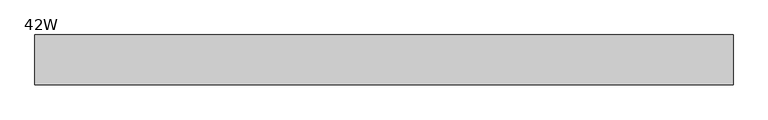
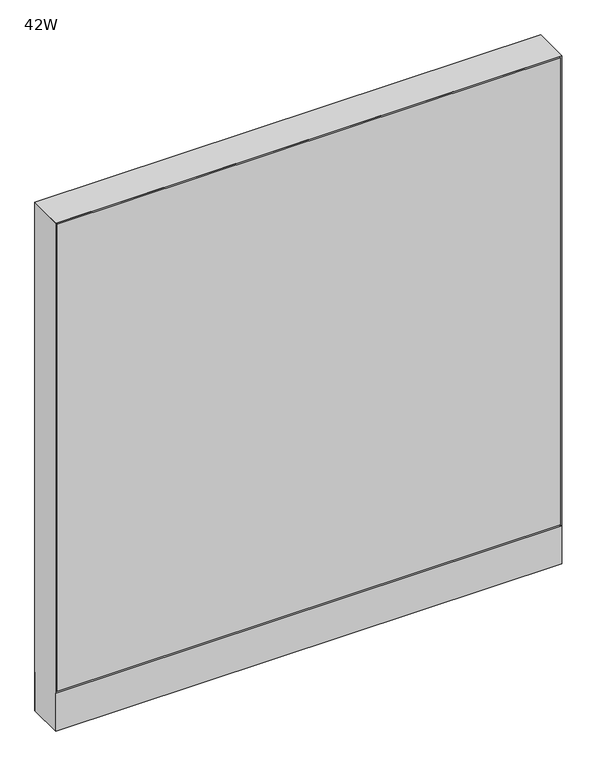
"""IFC4 building model written with IfcOpenShell, lengths in millimetres: furniture geometry, Steelcase - Montage - Frame - 45H - Enhanced Monolithic - Base Cavity : 42W."""

from ifc_helpers import new_model, si_unit, point, frame, frame_2d, origin, origin_with_axes, place, context, project, spatial, polyline, circle_curve, trimmed, segment, composite_curve, outline, extrude, faceted_brep, source, transform, mapped, element, save


def furniture_42w_ce28b0d0(model_context):
    return source(origin(), model_context, "Body", "SolidModel", [
        extrude(outline(polyline([(3.175, 31.7500194), (3.175, 38.1000194), (1063.625, 38.1000194), (1063.625, 31.7500194), (3.175, 31.7500194)])), frame((0.0, 0.0, 92.075), z_axis=(0.0, 0.0, 1.0), x_axis=(1.0, 0.0, 0.0)), (0.0, 0.0, 1.0), 1041.4),
        extrude(outline(polyline([(3.175, -31.7500194), (1063.625, -31.7500194), (1063.625, -38.1000194), (3.175, -38.1000194), (3.175, -31.7500194)])), frame((0.0, 0.0, 92.075), z_axis=(0.0, 0.0, 1.0), x_axis=(1.0, 0.0, 0.0)), (0.0, 0.0, 1.0), 1041.4),
        extrude(outline(polyline([(6.350003, -31.7499985), (1060.449997, -31.7499985), (1066.8, -38.1000015), (0.0, -38.1000015), (6.350003, -31.7499985)])), frame((0.0, 0.0, 4.064), z_axis=(0.0, 0.0, 1.0), x_axis=(1.0, 0.0, 0.0)), (0.0, 0.0, 1.0), 84.835997),
        extrude(outline(polyline([(6.3500002, 31.7500017), (0.0, 38.1000015), (1066.8, 38.1000015), (1060.4500002, 31.7500017), (6.3500002, 31.7500017)])), frame((0.0, 0.0, 4.064), z_axis=(0.0, 0.0, 1.0), x_axis=(1.0, 0.0, 0.0)), (0.0, 0.0, 1.0), 84.835997),
        faceted_brep([(1066.8, -38.1000015, 1136.65), (0.0, -38.1000015, 1136.65), (6.3500484, -31.749953, 1130.2999516), (1060.4499516, -31.749953, 1130.2999516), (6.3500484, 31.749953, 1130.2999516), (1060.4499516, 31.749953, 1130.2999516), (0.0, 38.1000015, 1136.65), (1066.8, 38.1000015, 1136.65)], [[[0, 1, 2, 3]], [[3, 2, 4, 5]], [[6, 7, 5, 4]], [[1, 0, 7, 6]], [[2, 1, 6, 4]], [[0, 3, 5, 7]]]),
        extrude(outline(composite_curve([segment(trimmed(circle_curve(frame_2d((44.45, 0.0)), 15.24), [point((29.21, 0.0))], [point((59.69, 0.0))], False, "CARTESIAN"), True, "CONTINUOUS"), segment(trimmed(circle_curve(frame_2d((44.45, 0.0)), 15.24), [point((59.69, 0.0))], [point((29.21, 0.0))], False, "CARTESIAN"), True, "CONTINUOUS")], self_intersect=False)), origin_with_axes(), (0.0, 0.0, 1.0), 4.064),
        extrude(outline(composite_curve([segment(trimmed(circle_curve(frame_2d((1022.35, 0.0)), 15.24), [point((1007.11, 0.0))], [point((1037.59, 0.0))], False, "CARTESIAN"), True, "CONTINUOUS"), segment(trimmed(circle_curve(frame_2d((1022.35, 0.0)), 15.24), [point((1037.59, 0.0))], [point((1007.11, 0.0))], False, "CARTESIAN"), True, "CONTINUOUS")], self_intersect=False)), origin_with_axes(), (0.0, 0.0, 1.0), 4.064),
        faceted_brep([(1066.8, -38.1000106, 4.064), (1066.8, 38.1000015, 4.064), (1066.8, 38.1000015, 1136.65), (1066.8, -38.1000106, 1136.6499637), (0.0, 38.1000015, 4.064), (0.0, -38.1000015, 4.064), (0.0, -38.1000015, 1136.65), (0.0, 38.1000015, 1136.65), (1060.4499879, 31.7500017, 600.202), (6.35, 31.7500017, 600.202), (6.3499998, 31.7500017, 612.902), (1060.4499879, 31.7500017, 612.902), (6.35, -31.7499985, 612.902), (1060.4499879, -31.7499985, 612.902), (6.350003, -31.7499985, 600.202), (1060.4499879, -31.7499985, 600.202), (6.35, 31.7500015, 4.064), (6.35, -31.7500015, 4.064), (1060.4499879, 31.7499894, 4.064), (1060.4499879, -31.7499985, 4.064), (6.35, 31.7500015, 1130.3), (6.35, -31.7500015, 1130.3), (1060.4499879, -31.7499985, 1130.2999516), (1060.4499879, 31.7499895, 1130.2999516)], [[[0, 1, 2, 3]], [[4, 5, 6, 7]], [[8, 9, 10, 11]], [[11, 10, 12, 13]], [[13, 12, 14, 15]], [[9, 8, 15, 14]], [[16, 17, 5, 4]], [[18, 1, 0, 19]], [[16, 4, 7, 20, 10, 9]], [[5, 17, 14, 12, 21, 6]], [[17, 16, 9, 14]], [[12, 10, 20, 21]], [[18, 19, 15, 8]], [[11, 13, 22, 23]], [[19, 0, 3, 22, 13, 15]], [[1, 18, 8, 11, 23, 2]], [[7, 6, 21, 20]], [[3, 2, 23, 22]]]),
    ])


if __name__ == "__main__":
    model = new_model("IFC4")
    model_context = context("Model", 3, world=origin())
    ifc_project = project(units=[si_unit("LENGTHUNIT", "METRE", prefix="MILLI")], contexts=[model_context])
    site = spatial("IfcSite", under=ifc_project)
    building = spatial("IfcBuilding", under=site)
    placement = place(None, origin())
    furniture_42w_shape = furniture_42w_ce28b0d0(model_context)
    element("IfcFurniture", 1, ObjectType="Steelcase - Montage - Frame - 45H - Enhanced Monolithic - Base Cavity : 42W", at=placement, inside=building, context=model_context, shape_type="MappedRepresentation", body=[
        mapped(furniture_42w_shape, transform((0.0, 0.0, 0.0), x_axis=(1.0, 0.0, 0.0), y_axis=(0.0, 1.0, 0.0), z_axis=(0.0, 0.0, 1.0))),
    ])
    save(model, "model.ifc")
